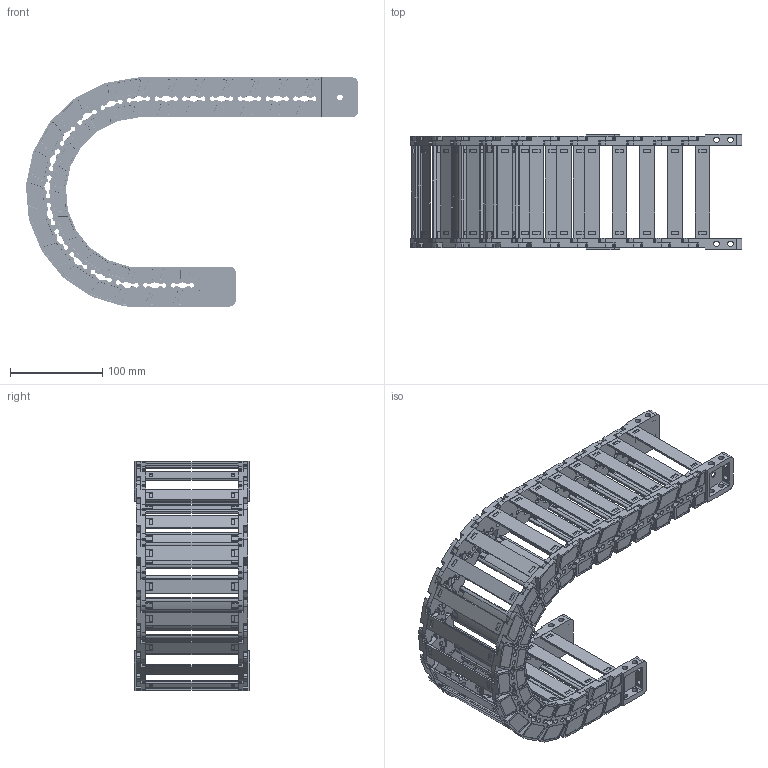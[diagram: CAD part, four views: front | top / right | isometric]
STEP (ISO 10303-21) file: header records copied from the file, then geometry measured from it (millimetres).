
FILE_DESCRIPTION((''),'2;1');
FILE_NAME('JY-35X100-R100_ASM','2026-05-07T15:25:50',('admin'),(''),'CREO PARAMETRIC BY PTC INC, 2021023','CREO PARAMETRIC BY PTC INC, 2021023','');
FILE_SCHEMA(('CONFIG_CONTROL_DESIGN'));
Length unit declared in the file: millimetre
Products named in the file (11): 35XL-L; YP; 35XL-R; ASM0001_ASM; 35-LTT-A-L; 35-LTT-A-R; 35XL-LTT-A_ASM; 35-LTT-B-L; 35-LTT-B-R; 35XL-LTT-B_ASM; JY-35X100-R100_ASM
Assembly tree (32 placements, depth 3):
  JY-35X100-R100_ASM
    ASM0001_ASM  x18
      35XL-L
      YP
      35XL-R
    35XL-LTT-A_ASM
      35-LTT-A-L
      YP  x2
      35-LTT-A-R
    35XL-LTT-B_ASM
      35-LTT-B-L
      YP  x2
      35-LTT-B-R
Bounding box: 359.13 x 124.5 x 247.81 mm (x, y, z)
Volume: 637470.9 mm3; surface area: 387122.5 mm2
Topology: 80 solids, 80 shells, 6520 faces, 19542 edges, 13190 vertices
Faces by surface type: plane 3688, cylinder 2148, cone 418, extrusion 152, bspline 114
Entity records: 27866 total; most frequent: CARTESIAN_POINT 6165, ORIENTED_EDGE 4640, DIRECTION 4359, EDGE_CURVE 2320, VERTEX_POINT 1568, AXIS2_PLACEMENT_3D 1471, VECTOR 1417, LINE 1401
